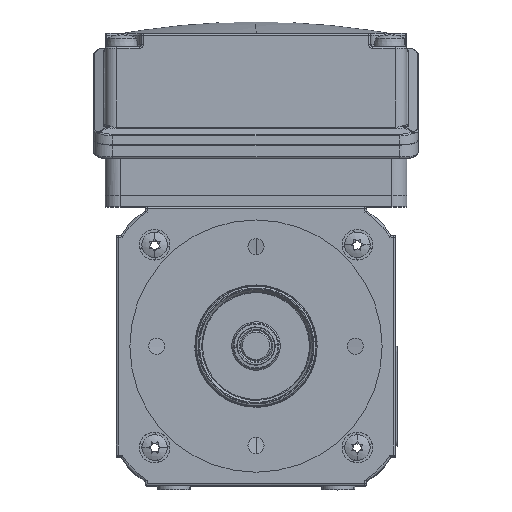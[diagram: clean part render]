
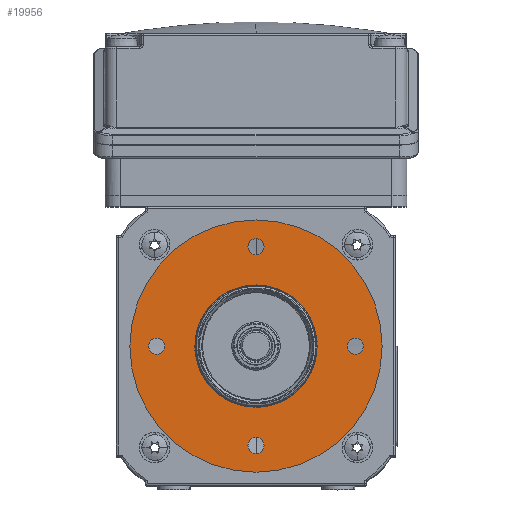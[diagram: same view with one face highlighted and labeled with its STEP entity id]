
A CAD part, top view. The second image highlights one B-rep face of the part: STEP entity #19956.
In plain terms, the highlighted planar face has unit normal (0, 0, 1).
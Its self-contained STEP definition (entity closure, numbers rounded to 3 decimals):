
#386 = AXIS2_PLACEMENT_3D ( 'NONE', #20871, #2166, #23997 ) ;
#548 = DIRECTION ( 'NONE',  ( 0., 0., 1. ) ) ;
#781 = CARTESIAN_POINT ( 'NONE',  ( -26., 0., 8. ) ) ;
#1101 = CARTESIAN_POINT ( 'NONE',  ( 0., 26., 8. ) ) ;
#1159 = CIRCLE ( 'NONE', #10107, 2.1 ) ;
#1845 = ORIENTED_EDGE ( 'NONE', *, *, #9607, .F. ) ;
#2166 = DIRECTION ( 'NONE',  ( 0., 0., 1. ) ) ;
#2171 = VERTEX_POINT ( 'NONE', #22061 ) ;
#2180 = EDGE_CURVE ( 'NONE', #2171, #37449, #1159, .T. ) ;
#2439 = VERTEX_POINT ( 'NONE', #11329 ) ;
#2710 = CIRCLE ( 'NONE', #40170, 2.1 ) ;
#3221 = CARTESIAN_POINT ( 'NONE',  ( 0., -16., 8. ) ) ;
#3744 = EDGE_CURVE ( 'NONE', #2439, #21059, #19126, .T. ) ;
#3907 = EDGE_CURVE ( 'NONE', #37449, #2171, #32263, .T. ) ;
#3959 = DIRECTION ( 'NONE',  ( 1., 0., 0. ) ) ;
#4307 = DIRECTION ( 'NONE',  ( 1., 0., 0. ) ) ;
#5136 = EDGE_CURVE ( 'NONE', #21059, #2439, #15010, .T. ) ;
#5289 = AXIS2_PLACEMENT_3D ( 'NONE', #781, #22551, #3959 ) ;
#5534 = CARTESIAN_POINT ( 'NONE',  ( 0., 0., 8. ) ) ;
#5642 = ORIENTED_EDGE ( 'NONE', *, *, #3907, .F. ) ;
#5710 = CIRCLE ( 'NONE', #386, 2.1 ) ;
#5999 = EDGE_LOOP ( 'NONE', ( #27022, #29475 ) ) ;
#6355 = DIRECTION ( 'NONE',  ( 1., 0., 0. ) ) ;
#7103 = EDGE_CURVE ( 'NONE', #23111, #24498, #37354, .T. ) ;
#7323 = FACE_BOUND ( 'NONE', #5999, .T. ) ;
#7372 = CARTESIAN_POINT ( 'NONE',  ( 23.9, 0., 8. ) ) ;
#7876 = CARTESIAN_POINT ( 'NONE',  ( 0., -26., 8. ) ) ;
#7917 = EDGE_CURVE ( 'NONE', #31926, #10302, #35740, .T. ) ;
#8085 = VERTEX_POINT ( 'NONE', #24918 ) ;
#8336 = FACE_BOUND ( 'NONE', #26673, .T. ) ;
#8403 = VERTEX_POINT ( 'NONE', #35609 ) ;
#8485 = DIRECTION ( 'NONE',  ( 0., 0., -1. ) ) ;
#8673 = DIRECTION ( 'NONE',  ( -1., 0., 0. ) ) ;
#8936 = DIRECTION ( 'NONE',  ( 0., 0., 1. ) ) ;
#9607 = EDGE_CURVE ( 'NONE', #38277, #8085, #19958, .T. ) ;
#10107 = AXIS2_PLACEMENT_3D ( 'NONE', #19206, #548, #22323 ) ;
#10302 = VERTEX_POINT ( 'NONE', #11844 ) ;
#10972 = DIRECTION ( 'NONE',  ( 1., 0., 0. ) ) ;
#11329 = CARTESIAN_POINT ( 'NONE',  ( 2.1, -26., 8. ) ) ;
#11844 = CARTESIAN_POINT ( 'NONE',  ( -16., 0., 8. ) ) ;
#12170 = CARTESIAN_POINT ( 'NONE',  ( 0., -26., 8. ) ) ;
#12856 = CARTESIAN_POINT ( 'NONE',  ( -26., 0., 8. ) ) ;
#13123 = CARTESIAN_POINT ( 'NONE',  ( -33., 0., 8. ) ) ;
#13134 = DIRECTION ( 'NONE',  ( 0., 0., 1. ) ) ;
#14263 = EDGE_CURVE ( 'NONE', #24498, #23111, #30712, .T. ) ;
#15010 = CIRCLE ( 'NONE', #24623, 2.1 ) ;
#15275 = DIRECTION ( 'NONE',  ( 1., 0., 0. ) ) ;
#15585 = FACE_BOUND ( 'NONE', #17890, .T. ) ;
#15755 = ORIENTED_EDGE ( 'NONE', *, *, #2180, .F. ) ;
#15917 = EDGE_CURVE ( 'NONE', #26932, #8403, #2710, .T. ) ;
#15986 = DIRECTION ( 'NONE',  ( 1., 0., 0. ) ) ;
#16925 = AXIS2_PLACEMENT_3D ( 'NONE', #27083, #8485, #30208 ) ;
#17792 = EDGE_CURVE ( 'NONE', #10302, #31926, #33472, .T. ) ;
#17890 = EDGE_LOOP ( 'NONE', ( #34231, #21888 ) ) ;
#18034 = DIRECTION ( 'NONE',  ( 0., 0., 1. ) ) ;
#18626 = CARTESIAN_POINT ( 'NONE',  ( -28.1, 0., 8. ) ) ;
#18702 = EDGE_LOOP ( 'NONE', ( #15755, #5642 ) ) ;
#18713 = EDGE_CURVE ( 'NONE', #8403, #26932, #25550, .T. ) ;
#19126 = CIRCLE ( 'NONE', #33139, 2.1 ) ;
#19206 = CARTESIAN_POINT ( 'NONE',  ( 26., 0., 8. ) ) ;
#19956 = ADVANCED_FACE ( 'NONE', ( #23895, #8336, #32161, #15585, #7323, #39437 ), #31098, .T. ) ;
#19958 = CIRCLE ( 'NONE', #37246, 2.1 ) ;
#20003 = AXIS2_PLACEMENT_3D ( 'NONE', #31774, #13134, #34856 ) ;
#20070 = ORIENTED_EDGE ( 'NONE', *, *, #31854, .F. ) ;
#20871 = CARTESIAN_POINT ( 'NONE',  ( 0., 26., 8. ) ) ;
#21059 = VERTEX_POINT ( 'NONE', #34404 ) ;
#21309 = EDGE_LOOP ( 'NONE', ( #20070, #1845 ) ) ;
#21888 = ORIENTED_EDGE ( 'NONE', *, *, #5136, .F. ) ;
#22061 = CARTESIAN_POINT ( 'NONE',  ( 28.1, 0., 8. ) ) ;
#22323 = DIRECTION ( 'NONE',  ( 1., 0., 0. ) ) ;
#22551 = DIRECTION ( 'NONE',  ( 0., 0., 1. ) ) ;
#22889 = DIRECTION ( 'NONE',  ( 0., 0., 1. ) ) ;
#23111 = VERTEX_POINT ( 'NONE', #13123 ) ;
#23895 = FACE_BOUND ( 'NONE', #21309, .T. ) ;
#23997 = DIRECTION ( 'NONE',  ( 1., 0., 0. ) ) ;
#24275 = CARTESIAN_POINT ( 'NONE',  ( 16., 0., 8. ) ) ;
#24498 = VERTEX_POINT ( 'NONE', #30278 ) ;
#24623 = AXIS2_PLACEMENT_3D ( 'NONE', #12170, #33886, #15275 ) ;
#24918 = CARTESIAN_POINT ( 'NONE',  ( 2.1, 26., 8. ) ) ;
#25014 = DIRECTION ( 'NONE',  ( 0., 0., 1. ) ) ;
#25550 = CIRCLE ( 'NONE', #5289, 2.1 ) ;
#26673 = EDGE_LOOP ( 'NONE', ( #35398, #31439 ) ) ;
#26932 = VERTEX_POINT ( 'NONE', #18626 ) ;
#27022 = ORIENTED_EDGE ( 'NONE', *, *, #17792, .T. ) ;
#27083 = CARTESIAN_POINT ( 'NONE',  ( 0., 0., 8. ) ) ;
#27265 = DIRECTION ( 'NONE',  ( 0., 0., -1. ) ) ;
#27547 = CARTESIAN_POINT ( 'NONE',  ( 0., 0., 8. ) ) ;
#29475 = ORIENTED_EDGE ( 'NONE', *, *, #7917, .T. ) ;
#29616 = DIRECTION ( 'NONE',  ( 0., 0., 1. ) ) ;
#30208 = DIRECTION ( 'NONE',  ( -1., 0., 0. ) ) ;
#30278 = CARTESIAN_POINT ( 'NONE',  ( 33., 0., 8. ) ) ;
#30657 = DIRECTION ( 'NONE',  ( 1., 0., 0. ) ) ;
#30712 = CIRCLE ( 'NONE', #20003, 33. ) ;
#30857 = AXIS2_PLACEMENT_3D ( 'NONE', #3221, #25014, #6355 ) ;
#31098 = PLANE ( 'NONE',  #30857 ) ;
#31439 = ORIENTED_EDGE ( 'NONE', *, *, #15917, .F. ) ;
#31774 = CARTESIAN_POINT ( 'NONE',  ( 0., 0., 8. ) ) ;
#31854 = EDGE_CURVE ( 'NONE', #8085, #38277, #5710, .T. ) ;
#31926 = VERTEX_POINT ( 'NONE', #24275 ) ;
#32006 = AXIS2_PLACEMENT_3D ( 'NONE', #27547, #8936, #30657 ) ;
#32161 = FACE_BOUND ( 'NONE', #18702, .T. ) ;
#32263 = CIRCLE ( 'NONE', #36521, 2.1 ) ;
#33139 = AXIS2_PLACEMENT_3D ( 'NONE', #7876, #29616, #10972 ) ;
#33472 = CIRCLE ( 'NONE', #39091, 16. ) ;
#33818 = ORIENTED_EDGE ( 'NONE', *, *, #7103, .T. ) ;
#33886 = DIRECTION ( 'NONE',  ( 0., 0., 1. ) ) ;
#34231 = ORIENTED_EDGE ( 'NONE', *, *, #3744, .F. ) ;
#34404 = CARTESIAN_POINT ( 'NONE',  ( -2.1, -26., 8. ) ) ;
#34471 = CARTESIAN_POINT ( 'NONE',  ( -2.1, 26., 8. ) ) ;
#34579 = DIRECTION ( 'NONE',  ( 0., 0., 1. ) ) ;
#34856 = DIRECTION ( 'NONE',  ( 1., 0., 0. ) ) ;
#35398 = ORIENTED_EDGE ( 'NONE', *, *, #18713, .F. ) ;
#35609 = CARTESIAN_POINT ( 'NONE',  ( -23.9, 0., 8. ) ) ;
#35740 = CIRCLE ( 'NONE', #16925, 16. ) ;
#36521 = AXIS2_PLACEMENT_3D ( 'NONE', #36691, #18034, #39805 ) ;
#36691 = CARTESIAN_POINT ( 'NONE',  ( 26., 0., 8. ) ) ;
#36714 = EDGE_LOOP ( 'NONE', ( #33818, #37726 ) ) ;
#37246 = AXIS2_PLACEMENT_3D ( 'NONE', #1101, #22889, #4307 ) ;
#37354 = CIRCLE ( 'NONE', #32006, 33. ) ;
#37449 = VERTEX_POINT ( 'NONE', #7372 ) ;
#37726 = ORIENTED_EDGE ( 'NONE', *, *, #14263, .T. ) ;
#38277 = VERTEX_POINT ( 'NONE', #34471 ) ;
#39091 = AXIS2_PLACEMENT_3D ( 'NONE', #5534, #27265, #8673 ) ;
#39437 = FACE_OUTER_BOUND ( 'NONE', #36714, .T. ) ;
#39805 = DIRECTION ( 'NONE',  ( 1., 0., 0. ) ) ;
#40170 = AXIS2_PLACEMENT_3D ( 'NONE', #12856, #34579, #15986 ) ;
